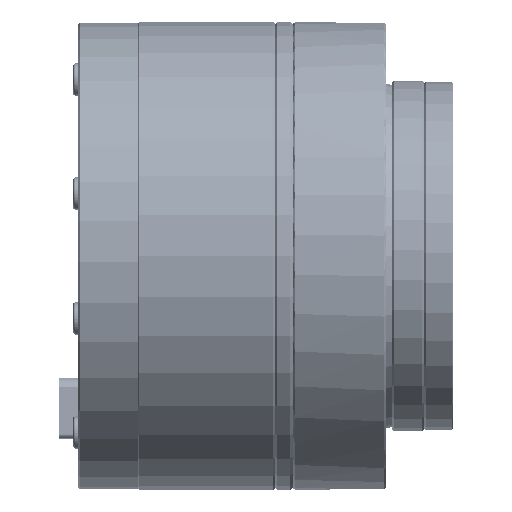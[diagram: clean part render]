
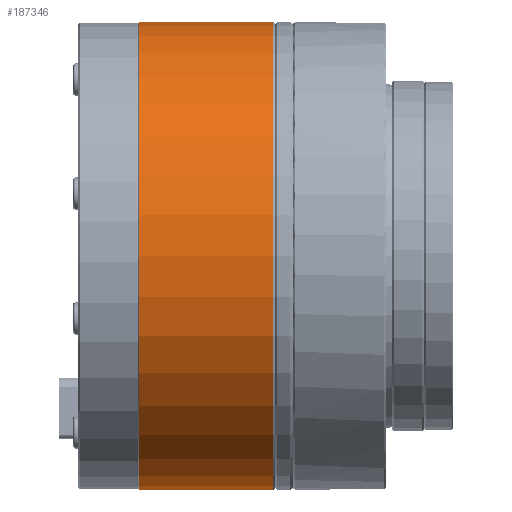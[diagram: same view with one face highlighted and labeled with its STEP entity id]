
A CAD part, front view. The second image highlights one B-rep face of the part: STEP entity #187346.
In plain terms, the highlighted cylindrical face has radius 40 mm (diameter 80 mm), a full revolution.
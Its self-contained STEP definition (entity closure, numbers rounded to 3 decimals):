
#3962 = CARTESIAN_POINT ( 'NONE',  ( 2.424, 0., 0. ) ) ;
#20484 = DIRECTION ( 'NONE',  ( -1., 0., 0. ) ) ;
#27749 = FACE_OUTER_BOUND ( 'NONE', #182504, .T. ) ;
#29618 = ORIENTED_EDGE ( 'NONE', *, *, #204996, .T. ) ;
#35976 = DIRECTION ( 'NONE',  ( 0., 0., -1. ) ) ;
#40562 = DIRECTION ( 'NONE',  ( 0., 0., -1. ) ) ;
#64560 = ORIENTED_EDGE ( 'NONE', *, *, #195597, .T. ) ;
#68452 = VERTEX_POINT ( 'NONE', #86304 ) ;
#68577 = DIRECTION ( 'NONE',  ( 1., 0., 0. ) ) ;
#68802 = VERTEX_POINT ( 'NONE', #115758 ) ;
#84982 = AXIS2_PLACEMENT_3D ( 'NONE', #3962, #115055, #35976 ) ;
#86304 = CARTESIAN_POINT ( 'NONE',  ( 2.124, 0., 40. ) ) ;
#93002 = AXIS2_PLACEMENT_3D ( 'NONE', #99364, #20484, #130210 ) ;
#93794 = AXIS2_PLACEMENT_3D ( 'NONE', #178244, #68577, #40562 ) ;
#99364 = CARTESIAN_POINT ( 'NONE',  ( 2.124, 0., 0. ) ) ;
#115055 = DIRECTION ( 'NONE',  ( -1., 0., 0. ) ) ;
#115758 = CARTESIAN_POINT ( 'NONE',  ( -20.776, 0., -40. ) ) ;
#130210 = DIRECTION ( 'NONE',  ( 0., 0., 1. ) ) ;
#132617 = CIRCLE ( 'NONE', #93002, 40. ) ;
#132705 = CIRCLE ( 'NONE', #93794, 40. ) ;
#159672 = FACE_OUTER_BOUND ( 'NONE', #185869, .T. ) ;
#167648 = CYLINDRICAL_SURFACE ( 'NONE', #84982, 40. ) ;
#178244 = CARTESIAN_POINT ( 'NONE',  ( -20.776, 0., 0. ) ) ;
#182504 = EDGE_LOOP ( 'NONE', ( #64560 ) ) ;
#185869 = EDGE_LOOP ( 'NONE', ( #29618 ) ) ;
#187346 = ADVANCED_FACE ( 'NONE', ( #27749, #159672 ), #167648, .T. ) ;
#195597 = EDGE_CURVE ( 'NONE', #68802, #68802, #132705, .T. ) ;
#204996 = EDGE_CURVE ( 'NONE', #68452, #68452, #132617, .T. ) ;
